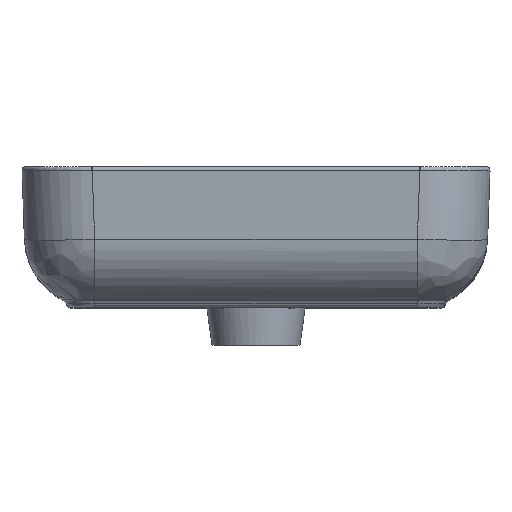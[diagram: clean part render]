
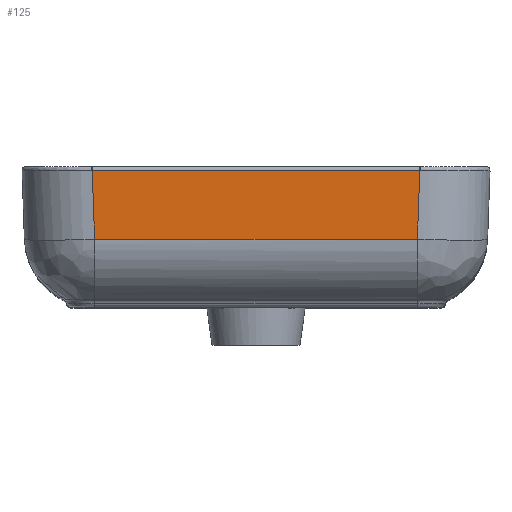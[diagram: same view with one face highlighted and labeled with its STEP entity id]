
A CAD part, top view. The second image highlights one B-rep face of the part: STEP entity #125.
In plain terms, the highlighted planar face has unit normal (0, -0.035, 0.999).
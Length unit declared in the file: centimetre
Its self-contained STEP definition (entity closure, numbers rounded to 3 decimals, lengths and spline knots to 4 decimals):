
#125=ADVANCED_FACE('',(#685),#8458,.T.);
#685=FACE_OUTER_BOUND('',#1266,.T.);
#1266=EDGE_LOOP('',(#2315,#2316,#2317,#2318));
#2315=ORIENTED_EDGE('',*,*,#4753,.T.);
#2316=ORIENTED_EDGE('',*,*,#4747,.T.);
#2317=ORIENTED_EDGE('',*,*,#4748,.T.);
#2318=ORIENTED_EDGE('',*,*,#4749,.T.);
#4747=EDGE_CURVE('',#7538,#7546,#6551,.T.);
#4748=EDGE_CURVE('',#7546,#7549,#6552,.T.);
#4749=EDGE_CURVE('',#7549,#7548,#6553,.T.);
#4753=EDGE_CURVE('',#7548,#7538,#6555,.T.);
#6551=B_SPLINE_CURVE_WITH_KNOTS('',1,(#31819,#31820),.UNSPECIFIED.,.F.,
 .F.,(2,2),(0.,1.),.UNSPECIFIED.);
#6552=B_SPLINE_CURVE_WITH_KNOTS('',1,(#31821,#31822),.UNSPECIFIED.,.F.,
 .F.,(2,2),(-1.,0.),.UNSPECIFIED.);
#6553=B_SPLINE_CURVE_WITH_KNOTS('',1,(#31823,#31824),.UNSPECIFIED.,.F.,
 .F.,(2,2),(0.,1.),.UNSPECIFIED.);
#6555=B_SPLINE_CURVE_WITH_KNOTS('',1,(#31861,#31862),.UNSPECIFIED.,.F.,
 .F.,(2,2),(-1.,0.),.UNSPECIFIED.);
#7538=VERTEX_POINT('',#29333);
#7546=VERTEX_POINT('',#29341);
#7548=VERTEX_POINT('',#29343);
#7549=VERTEX_POINT('',#29344);
#8458=PLANE('',#8631);
#8631=AXIS2_PLACEMENT_3D('',#11673,#8735,$);
#8735=DIRECTION('',(0.,-0.035,0.999));
#11673=CARTESIAN_POINT('',(-139.9327,-62.104,197.8313));
#29333=CARTESIAN_POINT('',(-137.8682,-62.094,197.8316));
#29341=CARTESIAN_POINT('',(137.8682,-62.094,197.8316));
#29343=CARTESIAN_POINT('',(-139.9227,-3.2598,199.8862));
#29344=CARTESIAN_POINT('',(139.9227,-3.2598,199.8862));
#31819=CARTESIAN_POINT('',(-137.8682,-62.094,197.8316));
#31820=CARTESIAN_POINT('',(137.8682,-62.094,197.8316));
#31821=CARTESIAN_POINT('',(137.8682,-62.094,197.8316));
#31822=CARTESIAN_POINT('',(139.9227,-3.2598,199.8862));
#31823=CARTESIAN_POINT('',(139.9227,-3.2598,199.8862));
#31824=CARTESIAN_POINT('',(-139.9227,-3.2598,199.8862));
#31861=CARTESIAN_POINT('',(-139.9227,-3.2598,199.8862));
#31862=CARTESIAN_POINT('',(-137.8682,-62.094,197.8316));
